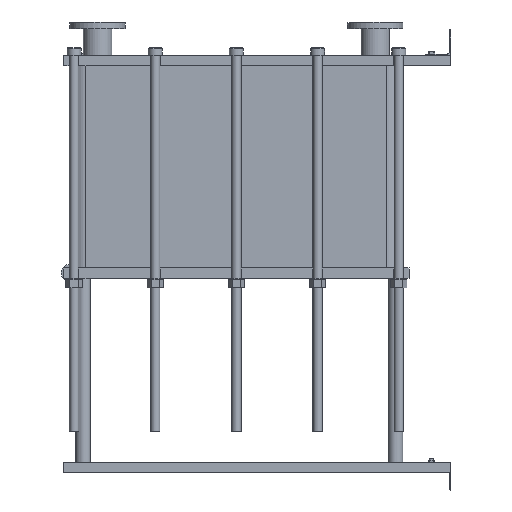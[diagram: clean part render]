
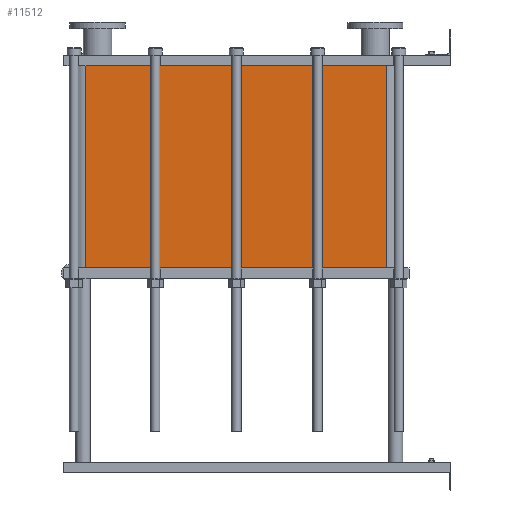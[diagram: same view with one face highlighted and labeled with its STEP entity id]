
A CAD part, left-side view. The second image highlights one B-rep face of the part: STEP entity #11512.
In plain terms, the highlighted planar face has unit normal (-1, 0, 0).
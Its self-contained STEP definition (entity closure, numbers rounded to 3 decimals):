
#1129=LINE('',#23232,#2102);
#1130=LINE('',#23236,#2103);
#1131=LINE('',#23238,#2104);
#1132=LINE('',#23239,#2105);
#2102=VECTOR('',#15887,10.);
#2103=VECTOR('',#15892,10.);
#2104=VECTOR('',#15893,10.);
#2105=VECTOR('',#15894,10.);
#3267=FACE_OUTER_BOUND('',#4093,.T.);
#4093=EDGE_LOOP('',(#10103,#10104,#10105,#10106));
#5642=VERTEX_POINT('',#23229);
#5643=VERTEX_POINT('',#23231);
#5644=VERTEX_POINT('',#23235);
#5645=VERTEX_POINT('',#23237);
#7159=EDGE_CURVE('',#5643,#5642,#1129,.T.);
#7161=EDGE_CURVE('',#5642,#5644,#1130,.T.);
#7162=EDGE_CURVE('',#5645,#5644,#1131,.T.);
#7163=EDGE_CURVE('',#5645,#5643,#1132,.T.);
#10103=ORIENTED_EDGE('',*,*,#7161,.T.);
#10104=ORIENTED_EDGE('',*,*,#7162,.F.);
#10105=ORIENTED_EDGE('',*,*,#7163,.T.);
#10106=ORIENTED_EDGE('',*,*,#7159,.T.);
#10857=PLANE('',#12751);
#11512=ADVANCED_FACE('',(#3267),#10857,.T.);
#12751=AXIS2_PLACEMENT_3D('',#23234,#15890,#15891);
#15887=DIRECTION('',(0.,0.,-1.));
#15890=DIRECTION('center_axis',(-1.,0.,0.));
#15891=DIRECTION('ref_axis',(0.,1.,0.));
#15892=DIRECTION('',(0.,-1.,0.));
#15893=DIRECTION('',(0.,0.,-1.));
#15894=DIRECTION('',(0.,1.,0.));
#23229=CARTESIAN_POINT('',(-200.,1414.,-783.15));
#23231=CARTESIAN_POINT('',(-200.,1414.,0.));
#23232=CARTESIAN_POINT('',(-200.,1414.,0.));
#23234=CARTESIAN_POINT('Origin',(-200.,248.,0.));
#23235=CARTESIAN_POINT('',(-200.,248.,-783.15));
#23236=CARTESIAN_POINT('',(-200.,539.5,-783.15));
#23237=CARTESIAN_POINT('',(-200.,248.,0.));
#23238=CARTESIAN_POINT('',(-200.,248.,0.));
#23239=CARTESIAN_POINT('',(-200.,248.,0.));
